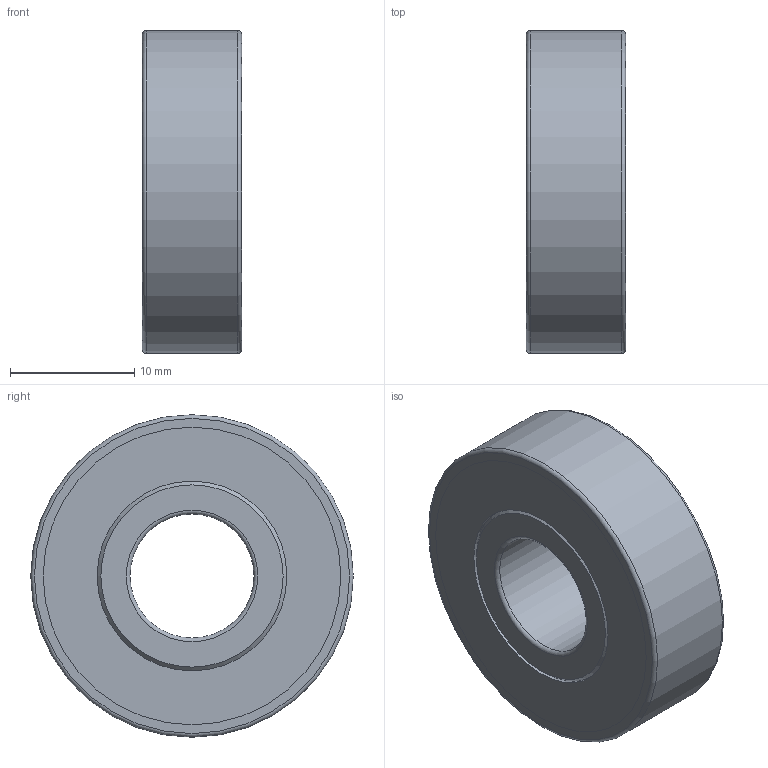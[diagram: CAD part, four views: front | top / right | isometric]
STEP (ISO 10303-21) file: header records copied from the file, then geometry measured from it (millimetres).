
FILE_DESCRIPTION(/* description */ (''),/* implementation_level */ '2;1');
FILE_NAME(/* name */ 'D:\moje\parametrické\60--\rada60--2RSR\60--2RSR\6000-2RSR.stp',/* time_stamp */ '2016-04-01T15:11:46+02:00',/* author */ ('OUBALASKO'),/* organization */ (''),/* preprocessor_version */ 'ST-DEVELOPER v15.2',/* originating_system */ 'Autodesk Inventor 2014',/* authorisation */ '');
FILE_SCHEMA (('AUTOMOTIVE_DESIGN { 1 0 10303 214 3 1 1 }'));
Length unit declared in the file: millimetre
Products named in the file (6): 6000-02-2RSR; 6000-ball; 6000-cage; 6000-01-2RSR; 6000-rsr,zr; 6000-2RSR
Bounding box: 8 x 26 x 26 mm (x, y, z)
Volume: 2983.1 mm3; surface area: 5032.6 mm2
Topology: 14 solids, 14 shells, 106 faces, 370 edges, 242 vertices
Faces by surface type: plane 42, sphere 40, cylinder 16, torus 6, cone 2
Full cylindrical faces by diameter (mm): 10 x1, 15.3 x4, 16.2 x2, 19.8 x2, 22 x2, 24 x4, 26 x1
Entity records: 2504 total; most frequent: CARTESIAN_POINT 968, DIRECTION 344, ORIENTED_EDGE 246, AXIS2_PLACEMENT_3D 172, EDGE_CURVE 123, VERTEX_POINT 92, CIRCLE 91, EDGE_LOOP 89
